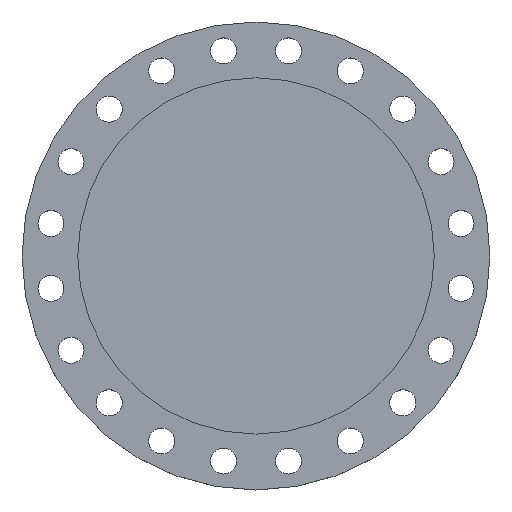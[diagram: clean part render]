
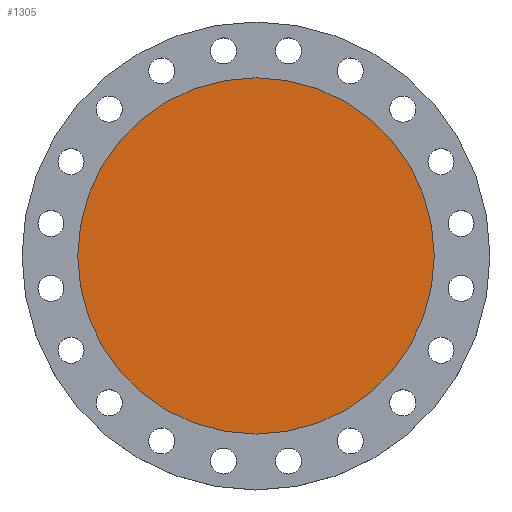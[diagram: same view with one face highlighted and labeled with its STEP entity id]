
A CAD part, top view. The second image highlights one B-rep face of the part: STEP entity #1305.
In plain terms, the highlighted planar face has unit normal (0, 0, 1).
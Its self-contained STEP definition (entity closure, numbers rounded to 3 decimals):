
#58 = VERTEX_POINT ( 'NONE', #773 ) ;
#82 = DIRECTION ( 'NONE',  ( 0., 0., -1. ) ) ;
#114 = VERTEX_POINT ( 'NONE', #1123 ) ;
#365 = AXIS2_PLACEMENT_3D ( 'NONE', #1728, #463, #1085 ) ;
#399 = CIRCLE ( 'NONE', #401, 287.5 ) ;
#401 = AXIS2_PLACEMENT_3D ( 'NONE', #1530, #82, #771 ) ;
#412 = EDGE_LOOP ( 'NONE', ( #437, #434 ) ) ;
#434 = ORIENTED_EDGE ( 'NONE', *, *, #1798, .F. ) ;
#437 = ORIENTED_EDGE ( 'NONE', *, *, #1313, .F. ) ;
#463 = DIRECTION ( 'NONE',  ( 0., 0., 1. ) ) ;
#537 = DIRECTION ( 'NONE',  ( -1., 0., 0. ) ) ;
#637 = FACE_OUTER_BOUND ( 'NONE', #412, .T. ) ;
#771 = DIRECTION ( 'NONE',  ( -1., 0., 0. ) ) ;
#773 = CARTESIAN_POINT ( 'NONE',  ( 287.5, 0., 0. ) ) ;
#1085 = DIRECTION ( 'NONE',  ( 1., 0., 0. ) ) ;
#1123 = CARTESIAN_POINT ( 'NONE',  ( -287.5, 0., 0. ) ) ;
#1264 = PLANE ( 'NONE',  #365 ) ;
#1305 = ADVANCED_FACE ( 'NONE', ( #637 ), #1264, .T. ) ;
#1313 = EDGE_CURVE ( 'NONE', #114, #58, #399, .T. ) ;
#1325 = CARTESIAN_POINT ( 'NONE',  ( 0., 0., 0. ) ) ;
#1530 = CARTESIAN_POINT ( 'NONE',  ( 0., 0., 0. ) ) ;
#1548 = AXIS2_PLACEMENT_3D ( 'NONE', #1325, #1797, #537 ) ;
#1728 = CARTESIAN_POINT ( 'NONE',  ( 0., 0., 0. ) ) ;
#1797 = DIRECTION ( 'NONE',  ( 0., 0., -1. ) ) ;
#1798 = EDGE_CURVE ( 'NONE', #58, #114, #1817, .T. ) ;
#1817 = CIRCLE ( 'NONE', #1548, 287.5 ) ;
